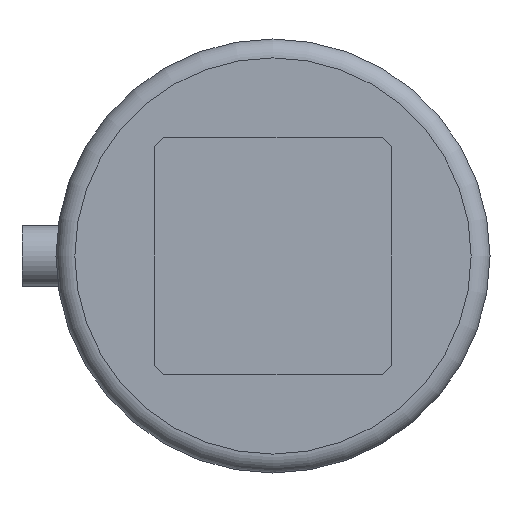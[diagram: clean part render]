
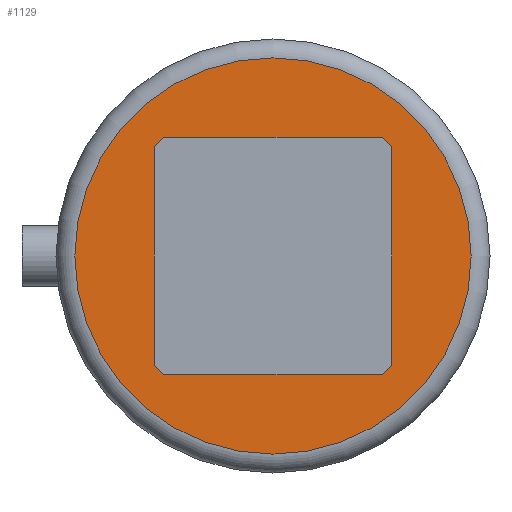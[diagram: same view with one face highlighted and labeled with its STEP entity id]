
A CAD part, left-side view. The second image highlights one B-rep face of the part: STEP entity #1129.
In plain terms, the highlighted planar face has unit normal (-1, 0, 0).
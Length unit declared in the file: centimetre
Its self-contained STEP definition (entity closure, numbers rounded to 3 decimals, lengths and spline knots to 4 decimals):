
#581=CIRCLE('',#1181,1.05);
#601=VERTEX_POINT('',#1376);
#602=VERTEX_POINT('',#1378);
#604=VERTEX_POINT('',#1384);
#607=VERTEX_POINT('',#1391);
#608=VERTEX_POINT('',#1393);
#612=VERTEX_POINT('',#1406);
#613=VERTEX_POINT('',#1410);
#614=VERTEX_POINT('',#1414);
#648=VERTEX_POINT('',#1684);
#660=VECTOR('',#1217,1.);
#664=VECTOR('',#1222,1.);
#667=VECTOR('',#1226,1.);
#674=VECTOR('',#1235,1.);
#676=VECTOR('',#1238,1.);
#679=VECTOR('',#1242,1.);
#680=VECTOR('',#1244,1.);
#681=VECTOR('',#1246,1.);
#700=LINE('',#1377,#660);
#704=LINE('',#1385,#664);
#707=LINE('',#1392,#667);
#714=LINE('',#1405,#674);
#716=LINE('',#1409,#676);
#719=LINE('',#1415,#679);
#720=LINE('',#1417,#680);
#721=LINE('',#1419,#681);
#740=EDGE_CURVE('',#601,#602,#700,.T.);
#744=EDGE_CURVE('',#601,#604,#704,.T.);
#747=EDGE_CURVE('',#607,#608,#707,.T.);
#754=EDGE_CURVE('',#612,#608,#714,.T.);
#756=EDGE_CURVE('',#612,#613,#716,.T.);
#759=EDGE_CURVE('',#614,#604,#719,.T.);
#760=EDGE_CURVE('',#607,#602,#720,.T.);
#761=EDGE_CURVE('',#614,#613,#721,.T.);
#807=EDGE_CURVE('',#648,#648,#581,.T.);
#944=ORIENTED_EDGE('',*,*,#760,.T.);
#945=ORIENTED_EDGE('',*,*,#740,.F.);
#946=ORIENTED_EDGE('',*,*,#744,.T.);
#947=ORIENTED_EDGE('',*,*,#759,.F.);
#948=ORIENTED_EDGE('',*,*,#761,.T.);
#949=ORIENTED_EDGE('',*,*,#756,.F.);
#950=ORIENTED_EDGE('',*,*,#754,.T.);
#951=ORIENTED_EDGE('',*,*,#747,.F.);
#952=ORIENTED_EDGE('',*,*,#807,.F.);
#1013=EDGE_LOOP('',(#944,#945,#946,#947,#948,#949,#950,#951));
#1014=EDGE_LOOP('',(#952));
#1075=FACE_BOUND('',#1013,.T.);
#1076=FACE_BOUND('',#1014,.T.);
#1129=ADVANCED_FACE('',(#1075,#1076),#1741,.T.);
#1181=AXIS2_PLACEMENT_3D('',#1683,#1312,#1313);
#1182=AXIS2_PLACEMENT_3D('',#1685,#1314,$);
#1217=DIRECTION('',(0.,0.707,0.707));
#1222=DIRECTION('',(0.,0.,-1.));
#1226=DIRECTION('',(0.,0.707,-0.707));
#1235=DIRECTION('',(0.,0.,1.));
#1238=DIRECTION('',(0.,-0.707,-0.707));
#1242=DIRECTION('',(0.,-0.707,0.707));
#1244=DIRECTION('',(0.,-1.,0.));
#1246=DIRECTION('',(0.,1.,0.));
#1312=DIRECTION('',(1.,0.,0.));
#1313=DIRECTION('',(0.,-1.05,0.));
#1314=DIRECTION('',(-1.,0.,0.));
#1376=CARTESIAN_POINT('',(-6.15,-0.63,0.58));
#1377=CARTESIAN_POINT('',(-6.15,-0.4613,0.7488));
#1378=CARTESIAN_POINT('',(-6.15,-0.58,0.63));
#1384=CARTESIAN_POINT('',(-6.15,-0.63,-0.58));
#1385=CARTESIAN_POINT('',(-6.15,-0.63,0.));
#1391=CARTESIAN_POINT('',(-6.15,0.58,0.63));
#1392=CARTESIAN_POINT('',(-6.15,0.7488,0.4613));
#1393=CARTESIAN_POINT('',(-6.15,0.63,0.58));
#1405=CARTESIAN_POINT('',(-6.15,0.63,0.));
#1406=CARTESIAN_POINT('',(-6.15,0.63,-0.58));
#1409=CARTESIAN_POINT('',(-6.15,0.7488,-0.4613));
#1410=CARTESIAN_POINT('',(-6.15,0.58,-0.63));
#1414=CARTESIAN_POINT('',(-6.15,-0.58,-0.63));
#1415=CARTESIAN_POINT('',(-6.15,-0.4613,-0.7488));
#1417=CARTESIAN_POINT('',(-6.15,0.2875,0.63));
#1419=CARTESIAN_POINT('',(-6.15,0.2875,-0.63));
#1683=CARTESIAN_POINT('',(-6.15,0.,0.));
#1684=CARTESIAN_POINT('',(-6.15,1.05,0.));
#1685=CARTESIAN_POINT('',(-6.15,0.575,0.));
#1741=PLANE('',#1182);
